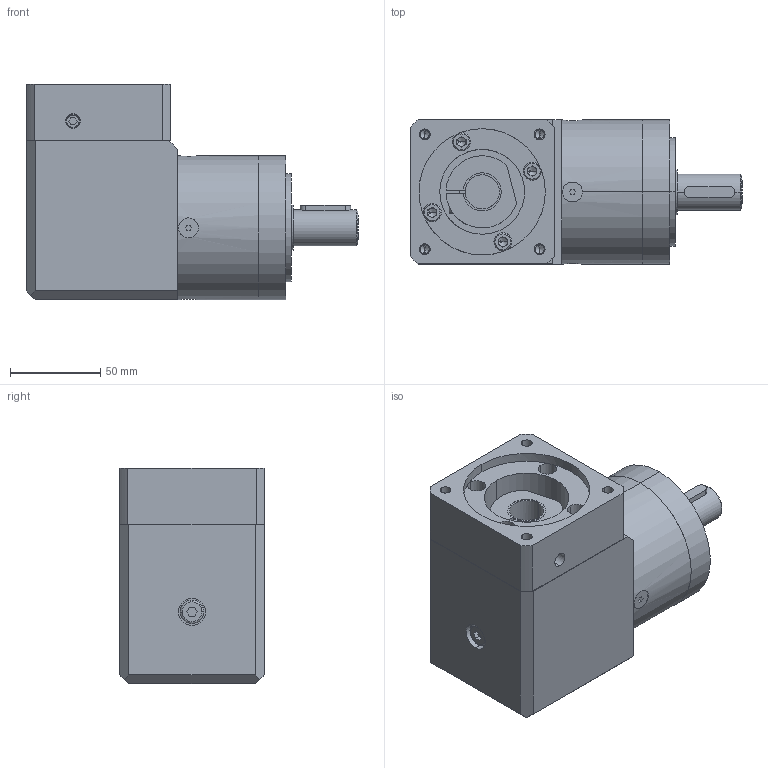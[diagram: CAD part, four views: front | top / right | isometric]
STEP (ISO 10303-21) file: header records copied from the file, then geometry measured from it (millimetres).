
FILE_DESCRIPTION (( 'STEP AP214' ), '1' );
FILE_NAME ('GBPNR-0801-CS-XXX-BLK32-748.STEP', '2015-05-15T15:35:35', ( '' ), ( '' ), 'SwSTEP 2.0', 'SolidWorks 2015', '' );
FILE_SCHEMA (( 'AUTOMOTIVE_DESIGN' ));
Length unit declared in the file: inch
Products named in the file (4): socket head cap screw_am_B18.3.1M - 6 x 1.0 x 16 Hex SHCS -- 16SHX; BLK32-748 adaptor plate for GBPNR-080X series; PLE80, 1 stage, mb_3002; GBPNR-0801-CS-XXX-BLK32-748
Assembly tree (6 placements, depth 2):
  GBPNR-0801-CS-XXX-BLK32-748
    PLE80, 1 stage, mb_3002
    BLK32-748 adaptor plate for GBPNR-080X series
    socket head cap screw_am_B18.3.1M - 6 x 1.0 x 16 Hex SHCS -- 16SHX  x4
Bounding box: 184 x 80 x 119.7 mm (x, y, z)
Volume: 117924.8 mm3; surface area: 101640.6 mm2
Topology: 5 solids, 15 shells, 726 faces, 1819 edges, 1136 vertices
Faces by surface type: cone 278, cylinder 263, plane 171, torus 8, bspline 6
Entity records: 13482 total; most frequent: CARTESIAN_POINT 2674, DIRECTION 2084, ORIENTED_EDGE 1790, EDGE_CURVE 913, AXIS2_PLACEMENT_3D 817, VERTEX_POINT 587, LINE 450, VECTOR 450
